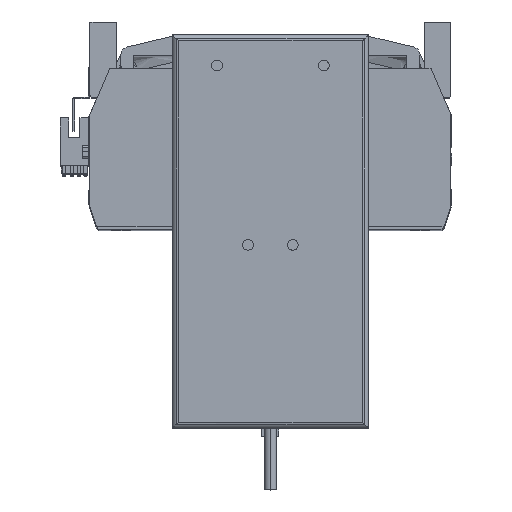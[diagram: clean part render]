
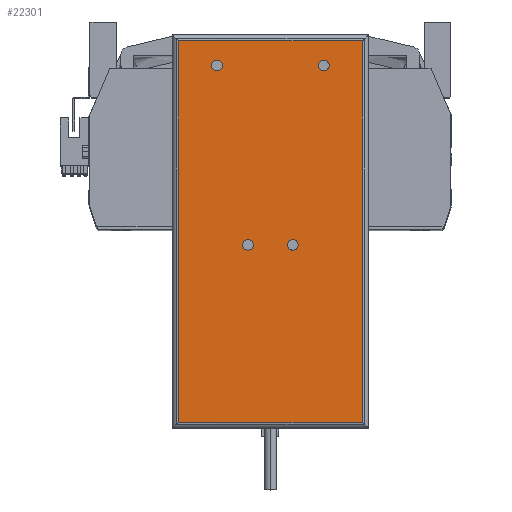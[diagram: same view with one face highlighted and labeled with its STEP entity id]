
A CAD part, top view. The second image highlights one B-rep face of the part: STEP entity #22301.
In plain terms, the highlighted planar face has unit normal (0, 0, 1) as drawn and (0, 0, -1) by its records, which use the part's own axes.
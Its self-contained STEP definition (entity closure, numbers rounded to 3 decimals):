
#170 = DIRECTION ( 'NONE',  ( 0., 0., -1. ) ) ;
#314 = CIRCLE ( 'NONE', #24517, 2.5 ) ;
#1027 = DIRECTION ( 'NONE',  ( 0., 0., 1. ) ) ;
#1257 = CARTESIAN_POINT ( 'NONE',  ( 8., -6.25, 0. ) ) ;
#1504 = ORIENTED_EDGE ( 'NONE', *, *, #24441, .T. ) ;
#1608 = VERTEX_POINT ( 'NONE', #22019 ) ;
#2208 = CARTESIAN_POINT ( 'NONE',  ( -46., -89.25, 0. ) ) ;
#3022 = CARTESIAN_POINT ( 'NONE',  ( -10.5, -6.25, 0. ) ) ;
#3529 = CARTESIAN_POINT ( 'NONE',  ( 25., 77.75, 0. ) ) ;
#3544 = VERTEX_POINT ( 'NONE', #39665 ) ;
#3741 = CARTESIAN_POINT ( 'NONE',  ( 13., -6.25, 0. ) ) ;
#4851 = FACE_BOUND ( 'NONE', #30102, .T. ) ;
#5097 = DIRECTION ( 'NONE',  ( 0., -1., 0. ) ) ;
#6437 = CIRCLE ( 'NONE', #20361, 2.5 ) ;
#7060 = AXIS2_PLACEMENT_3D ( 'NONE', #19299, #8683, #26557 ) ;
#7623 = EDGE_CURVE ( 'NONE', #37821, #19381, #10097, .T. ) ;
#7653 = CARTESIAN_POINT ( 'NONE',  ( -22.5, 77.75, 0. ) ) ;
#8508 = VERTEX_POINT ( 'NONE', #11199 ) ;
#8564 = EDGE_LOOP ( 'NONE', ( #41772, #34206 ) ) ;
#8683 = DIRECTION ( 'NONE',  ( 0., 0., -1. ) ) ;
#9212 = VECTOR ( 'NONE', #34716, 1000. ) ;
#9359 = CARTESIAN_POINT ( 'NONE',  ( -43., 89.25, 0. ) ) ;
#9466 = DIRECTION ( 'NONE',  ( -1., 0., 0. ) ) ;
#9938 = AXIS2_PLACEMENT_3D ( 'NONE', #27476, #38226, #9466 ) ;
#10097 = CIRCLE ( 'NONE', #20449, 2.5 ) ;
#10181 = CIRCLE ( 'NONE', #37384, 2.5 ) ;
#10620 = DIRECTION ( 'NONE',  ( 0., 0., -1. ) ) ;
#10771 = DIRECTION ( 'NONE',  ( -1., 0., 0. ) ) ;
#10782 = VERTEX_POINT ( 'NONE', #3741 ) ;
#11199 = CARTESIAN_POINT ( 'NONE',  ( 22.5, 77.75, 0. ) ) ;
#11806 = CARTESIAN_POINT ( 'NONE',  ( -46., 89.25, 0. ) ) ;
#12685 = ORIENTED_EDGE ( 'NONE', *, *, #23618, .F. ) ;
#12828 = CARTESIAN_POINT ( 'NONE',  ( 43., -89.25, 0. ) ) ;
#13179 = CIRCLE ( 'NONE', #9938, 2.5 ) ;
#13290 = FACE_BOUND ( 'NONE', #8564, .T. ) ;
#13346 = FACE_OUTER_BOUND ( 'NONE', #37974, .T. ) ;
#14266 = DIRECTION ( 'NONE',  ( -1., 0., 0. ) ) ;
#14304 = LINE ( 'NONE', #2208, #9212 ) ;
#14950 = VERTEX_POINT ( 'NONE', #46992 ) ;
#15148 = CARTESIAN_POINT ( 'NONE',  ( 43., 89.25, 0. ) ) ;
#15323 = VECTOR ( 'NONE', #26358, 1000. ) ;
#15551 = DIRECTION ( 'NONE',  ( 0., 1., 0. ) ) ;
#15780 = AXIS2_PLACEMENT_3D ( 'NONE', #18593, #1027, #29646 ) ;
#16694 = ORIENTED_EDGE ( 'NONE', *, *, #7623, .F. ) ;
#17670 = DIRECTION ( 'NONE',  ( -1., 0., 0. ) ) ;
#17815 = PLANE ( 'NONE',  #15780 ) ;
#18593 = CARTESIAN_POINT ( 'NONE',  ( -46., -92.25, 0. ) ) ;
#18698 = ORIENTED_EDGE ( 'NONE', *, *, #34833, .F. ) ;
#19007 = FACE_BOUND ( 'NONE', #30151, .T. ) ;
#19115 = CARTESIAN_POINT ( 'NONE',  ( 25., 77.75, 0. ) ) ;
#19299 = CARTESIAN_POINT ( 'NONE',  ( -25., 77.75, 0. ) ) ;
#19381 = VERTEX_POINT ( 'NONE', #25184 ) ;
#19763 = ORIENTED_EDGE ( 'NONE', *, *, #21671, .T. ) ;
#19888 = ORIENTED_EDGE ( 'NONE', *, *, #29510, .T. ) ;
#20251 = EDGE_CURVE ( 'NONE', #19381, #37821, #33224, .T. ) ;
#20361 = AXIS2_PLACEMENT_3D ( 'NONE', #35678, #39312, #17670 ) ;
#20449 = AXIS2_PLACEMENT_3D ( 'NONE', #35428, #20747, #31925 ) ;
#20747 = DIRECTION ( 'NONE',  ( 0., 0., -1. ) ) ;
#20982 = CIRCLE ( 'NONE', #7060, 2.5 ) ;
#21671 = EDGE_CURVE ( 'NONE', #14950, #26049, #46173, .T. ) ;
#22019 = CARTESIAN_POINT ( 'NONE',  ( 27.5, 77.75, 0. ) ) ;
#22301 = ADVANCED_FACE ( 'NONE', ( #13346, #32494, #13290, #4851, #19007 ), #17815, .F. ) ;
#23618 = EDGE_CURVE ( 'NONE', #3544, #45031, #6437, .T. ) ;
#24032 = ORIENTED_EDGE ( 'NONE', *, *, #45583, .F. ) ;
#24441 = EDGE_CURVE ( 'NONE', #42666, #14950, #14304, .T. ) ;
#24517 = AXIS2_PLACEMENT_3D ( 'NONE', #43346, #170, #10771 ) ;
#24696 = EDGE_LOOP ( 'NONE', ( #41674, #16694 ) ) ;
#25184 = CARTESIAN_POINT ( 'NONE',  ( -13., -6.25, 0. ) ) ;
#25746 = CIRCLE ( 'NONE', #30261, 2.5 ) ;
#26049 = VERTEX_POINT ( 'NONE', #9359 ) ;
#26358 = DIRECTION ( 'NONE',  ( 1., 0., 0. ) ) ;
#26557 = DIRECTION ( 'NONE',  ( -1., 0., 0. ) ) ;
#26608 = EDGE_CURVE ( 'NONE', #1608, #8508, #10181, .T. ) ;
#27476 = CARTESIAN_POINT ( 'NONE',  ( 10.5, -6.25, 0. ) ) ;
#27825 = CARTESIAN_POINT ( 'NONE',  ( -8., -6.25, 0. ) ) ;
#29510 = EDGE_CURVE ( 'NONE', #26049, #34159, #34540, .T. ) ;
#29646 = DIRECTION ( 'NONE',  ( 1., 0., 0. ) ) ;
#29920 = ORIENTED_EDGE ( 'NONE', *, *, #42506, .T. ) ;
#30102 = EDGE_LOOP ( 'NONE', ( #12685, #24032 ) ) ;
#30151 = EDGE_LOOP ( 'NONE', ( #18698, #36383 ) ) ;
#30261 = AXIS2_PLACEMENT_3D ( 'NONE', #3529, #10620, #14266 ) ;
#31925 = DIRECTION ( 'NONE',  ( -1., 0., 0. ) ) ;
#32494 = FACE_BOUND ( 'NONE', #24696, .T. ) ;
#33224 = CIRCLE ( 'NONE', #43929, 2.5 ) ;
#34159 = VERTEX_POINT ( 'NONE', #15148 ) ;
#34206 = ORIENTED_EDGE ( 'NONE', *, *, #34769, .F. ) ;
#34540 = LINE ( 'NONE', #11806, #15323 ) ;
#34716 = DIRECTION ( 'NONE',  ( -1., 0., 0. ) ) ;
#34769 = EDGE_CURVE ( 'NONE', #10782, #40418, #314, .T. ) ;
#34833 = EDGE_CURVE ( 'NONE', #8508, #1608, #25746, .T. ) ;
#35090 = DIRECTION ( 'NONE',  ( 0., 0., -1. ) ) ;
#35428 = CARTESIAN_POINT ( 'NONE',  ( -10.5, -6.25, 0. ) ) ;
#35550 = DIRECTION ( 'NONE',  ( -1., 0., 0. ) ) ;
#35678 = CARTESIAN_POINT ( 'NONE',  ( -25., 77.75, 0. ) ) ;
#36383 = ORIENTED_EDGE ( 'NONE', *, *, #26608, .F. ) ;
#37384 = AXIS2_PLACEMENT_3D ( 'NONE', #19115, #44449, #40928 ) ;
#37821 = VERTEX_POINT ( 'NONE', #27825 ) ;
#37974 = EDGE_LOOP ( 'NONE', ( #29920, #1504, #19763, #19888 ) ) ;
#38226 = DIRECTION ( 'NONE',  ( 0., 0., -1. ) ) ;
#39312 = DIRECTION ( 'NONE',  ( 0., 0., -1. ) ) ;
#39315 = VECTOR ( 'NONE', #15551, 1000. ) ;
#39665 = CARTESIAN_POINT ( 'NONE',  ( -27.5, 77.75, 0. ) ) ;
#40418 = VERTEX_POINT ( 'NONE', #1257 ) ;
#40928 = DIRECTION ( 'NONE',  ( -1., 0., 0. ) ) ;
#40935 = LINE ( 'NONE', #44651, #41426 ) ;
#41426 = VECTOR ( 'NONE', #5097, 1000. ) ;
#41674 = ORIENTED_EDGE ( 'NONE', *, *, #20251, .F. ) ;
#41772 = ORIENTED_EDGE ( 'NONE', *, *, #43035, .F. ) ;
#42506 = EDGE_CURVE ( 'NONE', #34159, #42666, #40935, .T. ) ;
#42666 = VERTEX_POINT ( 'NONE', #12828 ) ;
#43035 = EDGE_CURVE ( 'NONE', #40418, #10782, #13179, .T. ) ;
#43346 = CARTESIAN_POINT ( 'NONE',  ( 10.5, -6.25, 0. ) ) ;
#43929 = AXIS2_PLACEMENT_3D ( 'NONE', #3022, #35090, #35550 ) ;
#44223 = CARTESIAN_POINT ( 'NONE',  ( -43., -92.25, 0. ) ) ;
#44449 = DIRECTION ( 'NONE',  ( 0., 0., -1. ) ) ;
#44651 = CARTESIAN_POINT ( 'NONE',  ( 43., -92.25, 0. ) ) ;
#45031 = VERTEX_POINT ( 'NONE', #7653 ) ;
#45583 = EDGE_CURVE ( 'NONE', #45031, #3544, #20982, .T. ) ;
#46173 = LINE ( 'NONE', #44223, #39315 ) ;
#46992 = CARTESIAN_POINT ( 'NONE',  ( -43., -89.25, 0. ) ) ;
